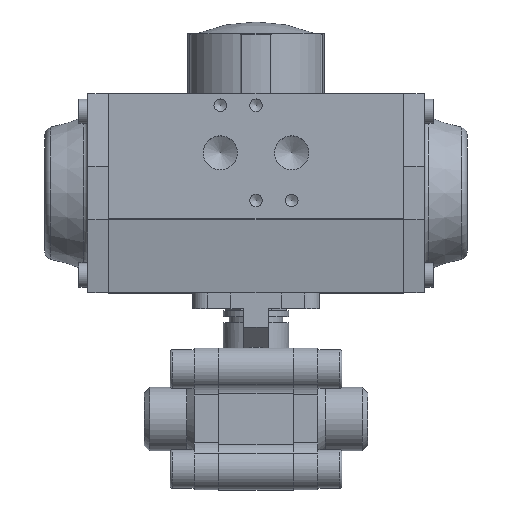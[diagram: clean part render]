
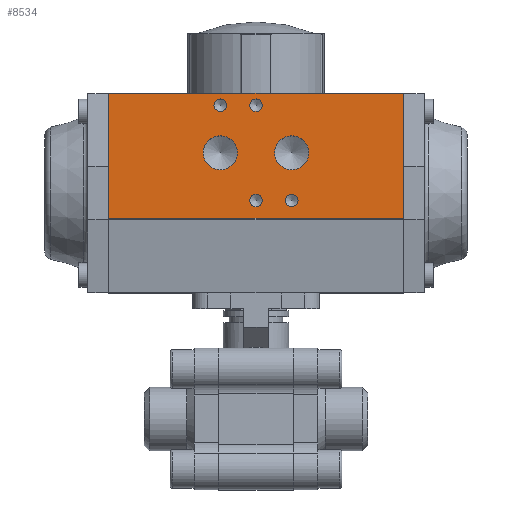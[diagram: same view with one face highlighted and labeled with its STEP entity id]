
A CAD part, top view. The second image highlights one B-rep face of the part: STEP entity #8534.
In plain terms, the highlighted planar face has unit normal (0, 0, 1) as drawn and (1, 0, 0) by its records, which use the part's own axes.
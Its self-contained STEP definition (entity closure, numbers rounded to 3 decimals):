
#142 = CARTESIAN_POINT ( 'NONE',  ( 36., -8.5, -49.5 ) ) ;
#311 = VERTEX_POINT ( 'NONE', #3265 ) ;
#346 = ORIENTED_EDGE ( 'NONE', *, *, #7410, .F. ) ;
#359 = AXIS2_PLACEMENT_3D ( 'NONE', #6338, #6206, #9969 ) ;
#539 = EDGE_CURVE ( 'NONE', #5638, #1804, #3909, .T. ) ;
#739 = VECTOR ( 'NONE', #2607, 1000. ) ;
#776 = CIRCLE ( 'NONE', #4049, 2.1 ) ;
#805 = CARTESIAN_POINT ( 'NONE',  ( 36., 13.5, -17.722 ) ) ;
#860 = VERTEX_POINT ( 'NONE', #4749 ) ;
#926 = CARTESIAN_POINT ( 'NONE',  ( 36., 29.5, -2.1 ) ) ;
#1129 = CIRCLE ( 'NONE', #2760, 5.722 ) ;
#1200 = EDGE_CURVE ( 'NONE', #7792, #7792, #2497, .T. ) ;
#1333 = ORIENTED_EDGE ( 'NONE', *, *, #4448, .F. ) ;
#1457 = CARTESIAN_POINT ( 'NONE',  ( 36., -2.5, -14.1 ) ) ;
#1760 = LINE ( 'NONE', #9462, #739 ) ;
#1804 = VERTEX_POINT ( 'NONE', #3541 ) ;
#1810 = VECTOR ( 'NONE', #5931, 1000. ) ;
#1977 = CIRCLE ( 'NONE', #359, 2.1 ) ;
#2037 = CARTESIAN_POINT ( 'NONE',  ( 36., 29.5, 12. ) ) ;
#2205 = CIRCLE ( 'NONE', #2407, 5.722 ) ;
#2222 = AXIS2_PLACEMENT_3D ( 'NONE', #2037, #2925, #7848 ) ;
#2392 = CARTESIAN_POINT ( 'NONE',  ( 36., -8.5, -49.5 ) ) ;
#2407 = AXIS2_PLACEMENT_3D ( 'NONE', #7127, #7791, #7004 ) ;
#2497 = CIRCLE ( 'NONE', #9529, 2.1 ) ;
#2501 = EDGE_CURVE ( 'NONE', #7842, #5638, #5865, .T. ) ;
#2522 = DIRECTION ( 'NONE',  ( 1., 0., 0. ) ) ;
#2607 = DIRECTION ( 'NONE',  ( 0., 0., 1. ) ) ;
#2760 = AXIS2_PLACEMENT_3D ( 'NONE', #11131, #2522, #7412 ) ;
#2870 = EDGE_CURVE ( 'NONE', #9089, #9089, #9872, .T. ) ;
#2925 = DIRECTION ( 'NONE',  ( 1., 0., 0. ) ) ;
#2977 = EDGE_LOOP ( 'NONE', ( #1333 ) ) ;
#3049 = ORIENTED_EDGE ( 'NONE', *, *, #539, .F. ) ;
#3214 = DIRECTION ( 'NONE',  ( 0., 0., -1. ) ) ;
#3265 = CARTESIAN_POINT ( 'NONE',  ( 36., 13.5, 6.277 ) ) ;
#3346 = FACE_BOUND ( 'NONE', #7840, .T. ) ;
#3541 = CARTESIAN_POINT ( 'NONE',  ( 36., 33.5, 49.5 ) ) ;
#3686 = VERTEX_POINT ( 'NONE', #805 ) ;
#3909 = LINE ( 'NONE', #4783, #5707 ) ;
#4049 = AXIS2_PLACEMENT_3D ( 'NONE', #4674, #11371, #8269 ) ;
#4151 = FACE_BOUND ( 'NONE', #7998, .T. ) ;
#4228 = EDGE_CURVE ( 'NONE', #311, #311, #2205, .T. ) ;
#4448 = EDGE_CURVE ( 'NONE', #8224, #8224, #776, .T. ) ;
#4484 = ORIENTED_EDGE ( 'NONE', *, *, #9148, .F. ) ;
#4674 = CARTESIAN_POINT ( 'NONE',  ( 36., -2.5, -12. ) ) ;
#4749 = CARTESIAN_POINT ( 'NONE',  ( 36., -2.5, -2.1 ) ) ;
#4783 = CARTESIAN_POINT ( 'NONE',  ( 36., -8.5, 49.5 ) ) ;
#4963 = AXIS2_PLACEMENT_3D ( 'NONE', #142, #11678, #3214 ) ;
#5312 = DIRECTION ( 'NONE',  ( 0., 1., 0. ) ) ;
#5638 = VERTEX_POINT ( 'NONE', #11929 ) ;
#5707 = VECTOR ( 'NONE', #6825, 1000. ) ;
#5865 = LINE ( 'NONE', #6953, #1810 ) ;
#5931 = DIRECTION ( 'NONE',  ( 0., 0., 1. ) ) ;
#5938 = FACE_BOUND ( 'NONE', #9913, .T. ) ;
#6131 = ORIENTED_EDGE ( 'NONE', *, *, #1200, .F. ) ;
#6206 = DIRECTION ( 'NONE',  ( 1., 0., 0. ) ) ;
#6338 = CARTESIAN_POINT ( 'NONE',  ( 36., -2.5, 0. ) ) ;
#6776 = EDGE_LOOP ( 'NONE', ( #4484 ) ) ;
#6825 = DIRECTION ( 'NONE',  ( 0., 1., 0. ) ) ;
#6953 = CARTESIAN_POINT ( 'NONE',  ( 36., -8.5, -49.5 ) ) ;
#7004 = DIRECTION ( 'NONE',  ( 0., 0., -1. ) ) ;
#7127 = CARTESIAN_POINT ( 'NONE',  ( 36., 13.5, 12. ) ) ;
#7146 = FACE_BOUND ( 'NONE', #7960, .T. ) ;
#7199 = FACE_OUTER_BOUND ( 'NONE', #11532, .T. ) ;
#7258 = DIRECTION ( 'NONE',  ( 0., 0., -1. ) ) ;
#7275 = EDGE_CURVE ( 'NONE', #7842, #10490, #9134, .T. ) ;
#7327 = CARTESIAN_POINT ( 'NONE',  ( 36., 29.5, 0. ) ) ;
#7410 = EDGE_CURVE ( 'NONE', #3686, #3686, #1129, .T. ) ;
#7412 = DIRECTION ( 'NONE',  ( 0., 0., -1. ) ) ;
#7540 = CARTESIAN_POINT ( 'NONE',  ( 36., 33.5, -49.5 ) ) ;
#7674 = ORIENTED_EDGE ( 'NONE', *, *, #10034, .T. ) ;
#7791 = DIRECTION ( 'NONE',  ( 1., 0., 0. ) ) ;
#7792 = VERTEX_POINT ( 'NONE', #926 ) ;
#7840 = EDGE_LOOP ( 'NONE', ( #346 ) ) ;
#7842 = VERTEX_POINT ( 'NONE', #12435 ) ;
#7848 = DIRECTION ( 'NONE',  ( 0., 0., -1. ) ) ;
#7960 = EDGE_LOOP ( 'NONE', ( #11890 ) ) ;
#7998 = EDGE_LOOP ( 'NONE', ( #10845 ) ) ;
#8224 = VERTEX_POINT ( 'NONE', #1457 ) ;
#8269 = DIRECTION ( 'NONE',  ( 0., 0., -1. ) ) ;
#8397 = VECTOR ( 'NONE', #5312, 1000. ) ;
#8534 = ADVANCED_FACE ( 'NONE', ( #7146, #9940, #8804, #5938, #3346, #4151, #7199 ), #9747, .T. ) ;
#8804 = FACE_BOUND ( 'NONE', #6776, .T. ) ;
#9089 = VERTEX_POINT ( 'NONE', #10100 ) ;
#9134 = LINE ( 'NONE', #2392, #8397 ) ;
#9148 = EDGE_CURVE ( 'NONE', #860, #860, #1977, .T. ) ;
#9462 = CARTESIAN_POINT ( 'NONE',  ( 36., 33.5, -49.5 ) ) ;
#9529 = AXIS2_PLACEMENT_3D ( 'NONE', #7327, #10857, #7258 ) ;
#9747 = PLANE ( 'NONE',  #4963 ) ;
#9757 = ORIENTED_EDGE ( 'NONE', *, *, #7275, .T. ) ;
#9872 = CIRCLE ( 'NONE', #2222, 2.1 ) ;
#9913 = EDGE_LOOP ( 'NONE', ( #6131 ) ) ;
#9940 = FACE_BOUND ( 'NONE', #2977, .T. ) ;
#9969 = DIRECTION ( 'NONE',  ( 0., 0., -1. ) ) ;
#10034 = EDGE_CURVE ( 'NONE', #10490, #1804, #1760, .T. ) ;
#10100 = CARTESIAN_POINT ( 'NONE',  ( 36., 29.5, 9.9 ) ) ;
#10490 = VERTEX_POINT ( 'NONE', #7540 ) ;
#10845 = ORIENTED_EDGE ( 'NONE', *, *, #4228, .F. ) ;
#10857 = DIRECTION ( 'NONE',  ( 1., 0., 0. ) ) ;
#11131 = CARTESIAN_POINT ( 'NONE',  ( 36., 13.5, -12. ) ) ;
#11371 = DIRECTION ( 'NONE',  ( 1., 0., 0. ) ) ;
#11532 = EDGE_LOOP ( 'NONE', ( #7674, #3049, #11954, #9757 ) ) ;
#11678 = DIRECTION ( 'NONE',  ( 1., 0., 0. ) ) ;
#11890 = ORIENTED_EDGE ( 'NONE', *, *, #2870, .F. ) ;
#11929 = CARTESIAN_POINT ( 'NONE',  ( 36., -8.5, 49.5 ) ) ;
#11954 = ORIENTED_EDGE ( 'NONE', *, *, #2501, .F. ) ;
#12435 = CARTESIAN_POINT ( 'NONE',  ( 36., -8.5, -49.5 ) ) ;
